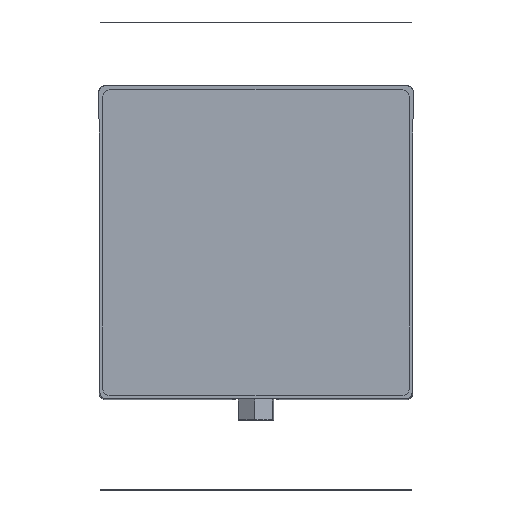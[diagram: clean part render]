
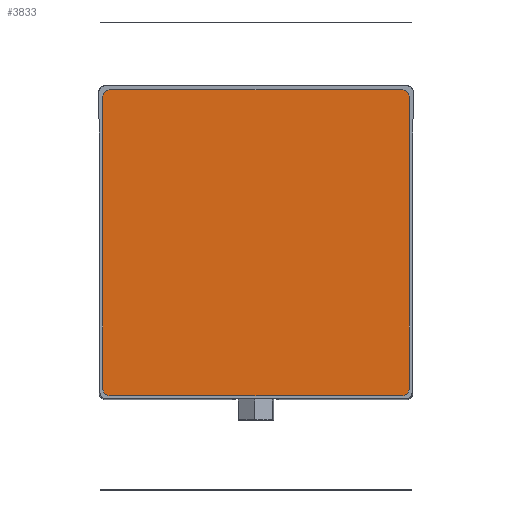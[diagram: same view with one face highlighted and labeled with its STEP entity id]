
A CAD part, front view. The second image highlights one B-rep face of the part: STEP entity #3833.
In plain terms, the highlighted planar face has unit normal (0, -1, 0).
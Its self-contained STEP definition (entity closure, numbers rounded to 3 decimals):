
#129 = AXIS2_PLACEMENT_3D ( 'NONE', #17254, #17255, #17256 ) ;
#130 = AXIS2_PLACEMENT_3D ( 'NONE', #17259, #17260, #17261 ) ;
#131 = AXIS2_PLACEMENT_3D ( 'NONE', #17264, #17265, #17266 ) ;
#132 = AXIS2_PLACEMENT_3D ( 'NONE', #17268, #17269, #17270 ) ;
#627 = PLANE ( 'NONE',  #10484 ) ;
#635 = CARTESIAN_POINT ( 'NONE',  ( 93.5, -2., -193.5 ) ) ;
#636 = DIRECTION ( 'NONE',  ( 0., -1., 0. ) ) ;
#637 = DIRECTION ( 'NONE',  ( 0., 0., -1. ) ) ;
#3412 = ORIENTED_EDGE ( 'NONE', *, *, #11352, .T. ) ;
#3413 = ORIENTED_EDGE ( 'NONE', *, *, #11353, .T. ) ;
#3414 = ORIENTED_EDGE ( 'NONE', *, *, #11354, .T. ) ;
#3415 = ORIENTED_EDGE ( 'NONE', *, *, #11355, .T. ) ;
#3416 = ORIENTED_EDGE ( 'NONE', *, *, #11356, .T. ) ;
#3417 = ORIENTED_EDGE ( 'NONE', *, *, #11357, .T. ) ;
#3418 = ORIENTED_EDGE ( 'NONE', *, *, #11358, .T. ) ;
#3419 = ORIENTED_EDGE ( 'NONE', *, *, #11359, .T. ) ;
#3833 = ADVANCED_FACE ( 'NONE', ( #12951 ), #627, .T. ) ;
#10484 = AXIS2_PLACEMENT_3D ( 'NONE', #635, #636, #637 ) ;
#11352 = EDGE_CURVE ( 'NONE', #13631, #13633, #16269, .T. ) ;
#11353 = EDGE_CURVE ( 'NONE', #13633, #13645, #16241, .T. ) ;
#11354 = EDGE_CURVE ( 'NONE', #13645, #13646, #16272, .T. ) ;
#11355 = EDGE_CURVE ( 'NONE', #13646, #13647, #16274, .T. ) ;
#11356 = EDGE_CURVE ( 'NONE', #13647, #13648, #16275, .T. ) ;
#11357 = EDGE_CURVE ( 'NONE', #13648, #13649, #16277, .T. ) ;
#11358 = EDGE_CURVE ( 'NONE', #13649, #13650, #16278, .T. ) ;
#11359 = EDGE_CURVE ( 'NONE', #13650, #13631, #16280, .T. ) ;
#12951 = FACE_OUTER_BOUND ( 'NONE', #14304, .T. ) ;
#13631 = VERTEX_POINT ( 'NONE', #18649 ) ;
#13633 = VERTEX_POINT ( 'NONE', #18651 ) ;
#13645 = VERTEX_POINT ( 'NONE', #18663 ) ;
#13646 = VERTEX_POINT ( 'NONE', #18664 ) ;
#13647 = VERTEX_POINT ( 'NONE', #18665 ) ;
#13648 = VERTEX_POINT ( 'NONE', #18666 ) ;
#13649 = VERTEX_POINT ( 'NONE', #18667 ) ;
#13650 = VERTEX_POINT ( 'NONE', #18668 ) ;
#14304 = EDGE_LOOP ( 'NONE', ( #3412, #3413, #3414, #3415, #3416, #3417, #3418, #3419 ) ) ;
#16241 = LINE ( 'NONE', #17253, #16273 ) ;
#16269 = CIRCLE ( 'NONE', #129, 5. ) ;
#16272 = CIRCLE ( 'NONE', #130, 5. ) ;
#16273 = VECTOR ( 'NONE', #17231, 1000. ) ;
#16274 = LINE ( 'NONE', #17252, #16276 ) ;
#16275 = CIRCLE ( 'NONE', #131, 5. ) ;
#16276 = VECTOR ( 'NONE', #17251, 1000. ) ;
#16277 = LINE ( 'NONE', #17257, #16279 ) ;
#16278 = CIRCLE ( 'NONE', #132, 5. ) ;
#16279 = VECTOR ( 'NONE', #17258, 1000. ) ;
#16280 = LINE ( 'NONE', #17262, #16282 ) ;
#16282 = VECTOR ( 'NONE', #17263, 1000. ) ;
#17231 = DIRECTION ( 'NONE',  ( 0., 0., 1. ) ) ;
#17251 = DIRECTION ( 'NONE',  ( -1., 0., 0. ) ) ;
#17252 = CARTESIAN_POINT ( 'NONE',  ( 93.5, -2., -1.5 ) ) ;
#17253 = CARTESIAN_POINT ( 'NONE',  ( 98.5, -2., -193.5 ) ) ;
#17254 = CARTESIAN_POINT ( 'NONE',  ( 93.5, -2., -193.5 ) ) ;
#17255 = DIRECTION ( 'NONE',  ( 0., -1., 0. ) ) ;
#17256 = DIRECTION ( 'NONE',  ( 0., 0., -1. ) ) ;
#17257 = CARTESIAN_POINT ( 'NONE',  ( -98.5, -2., -6.5 ) ) ;
#17258 = DIRECTION ( 'NONE',  ( 0., 0., -1. ) ) ;
#17259 = CARTESIAN_POINT ( 'NONE',  ( 93.5, -2., -6.5 ) ) ;
#17260 = DIRECTION ( 'NONE',  ( 0., -1., 0. ) ) ;
#17261 = DIRECTION ( 'NONE',  ( 0., 0., -1. ) ) ;
#17262 = CARTESIAN_POINT ( 'NONE',  ( -93.5, -2., -198.5 ) ) ;
#17263 = DIRECTION ( 'NONE',  ( 1., 0., 0. ) ) ;
#17264 = CARTESIAN_POINT ( 'NONE',  ( -93.5, -2., -6.5 ) ) ;
#17265 = DIRECTION ( 'NONE',  ( 0., -1., 0. ) ) ;
#17266 = DIRECTION ( 'NONE',  ( 0., 0., -1. ) ) ;
#17268 = CARTESIAN_POINT ( 'NONE',  ( -93.5, -2., -193.5 ) ) ;
#17269 = DIRECTION ( 'NONE',  ( 0., -1., 0. ) ) ;
#17270 = DIRECTION ( 'NONE',  ( 0., 0., -1. ) ) ;
#18649 = CARTESIAN_POINT ( 'NONE',  ( 93.5, -2., -198.5 ) ) ;
#18651 = CARTESIAN_POINT ( 'NONE',  ( 98.5, -2., -193.5 ) ) ;
#18663 = CARTESIAN_POINT ( 'NONE',  ( 98.5, -2., -6.5 ) ) ;
#18664 = CARTESIAN_POINT ( 'NONE',  ( 93.5, -2., -1.5 ) ) ;
#18665 = CARTESIAN_POINT ( 'NONE',  ( -93.5, -2., -1.5 ) ) ;
#18666 = CARTESIAN_POINT ( 'NONE',  ( -98.5, -2., -6.5 ) ) ;
#18667 = CARTESIAN_POINT ( 'NONE',  ( -98.5, -2., -193.5 ) ) ;
#18668 = CARTESIAN_POINT ( 'NONE',  ( -93.5, -2., -198.5 ) ) ;
